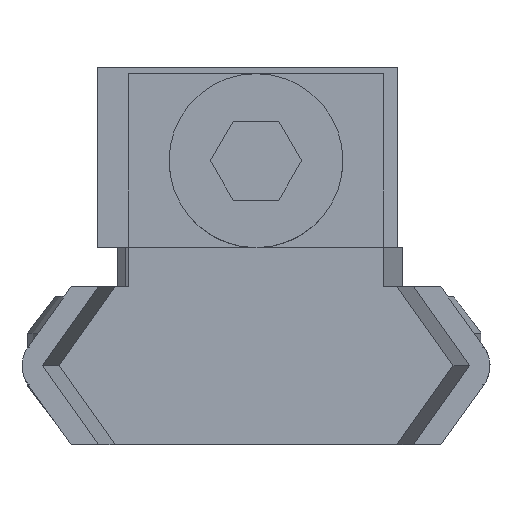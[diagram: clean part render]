
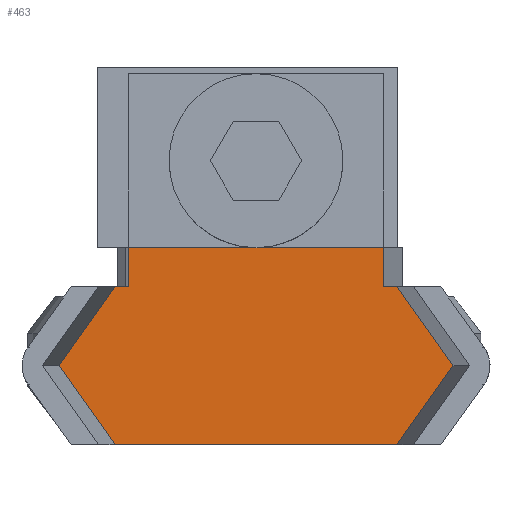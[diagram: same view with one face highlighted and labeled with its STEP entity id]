
A CAD part, left-side view. The second image highlights one B-rep face of the part: STEP entity #463.
In plain terms, the highlighted planar face has unit normal (-1, 0, 0).
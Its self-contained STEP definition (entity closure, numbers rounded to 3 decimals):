
#146 = LINE ( 'NONE', #6248, #530 ) ;
#156 = DIRECTION ( 'NONE',  ( -1., 0., 0. ) ) ;
#189 = EDGE_CURVE ( 'NONE', #4803, #2598, #313, .T. ) ;
#201 = CARTESIAN_POINT ( 'NONE',  ( 3., -5., 4.451 ) ) ;
#210 = VECTOR ( 'NONE', #2327, 1000. ) ;
#251 = DIRECTION ( 'NONE',  ( 0., 0., -1. ) ) ;
#259 = CARTESIAN_POINT ( 'NONE',  ( 3., 0., 0. ) ) ;
#285 = ORIENTED_EDGE ( 'NONE', *, *, #590, .F. ) ;
#313 = LINE ( 'NONE', #573, #2777 ) ;
#463 = ADVANCED_FACE ( 'NONE', ( #4573 ), #2714, .F. ) ;
#524 = VECTOR ( 'NONE', #3842, 1000. ) ;
#527 = ORIENTED_EDGE ( 'NONE', *, *, #2195, .F. ) ;
#530 = VECTOR ( 'NONE', #5815, 1000. ) ;
#555 = EDGE_LOOP ( 'NONE', ( #527, #6181, #2959, #4100, #2853, #3715, #4629, #285, #4739, #5579, #6380, #3537 ) ) ;
#573 = CARTESIAN_POINT ( 'NONE',  ( 3., 0., -0.176 ) ) ;
#590 = EDGE_CURVE ( 'NONE', #4803, #3741, #6364, .T. ) ;
#606 = CARTESIAN_POINT ( 'NONE',  ( 3., -5., -4.451 ) ) ;
#633 = CARTESIAN_POINT ( 'NONE',  ( 3., -2.5, 6.228 ) ) ;
#756 = DIRECTION ( 'NONE',  ( 0., 0., -1. ) ) ;
#767 = CARTESIAN_POINT ( 'NONE',  ( 3., 1.25, 0.234 ) ) ;
#836 = VECTOR ( 'NONE', #1183, 1000. ) ;
#909 = VERTEX_POINT ( 'NONE', #3819 ) ;
#1092 = VECTOR ( 'NONE', #1179, 1000. ) ;
#1156 = CARTESIAN_POINT ( 'NONE',  ( 3., 0., 4.04 ) ) ;
#1179 = DIRECTION ( 'NONE',  ( 0., 0.815, 0.579 ) ) ;
#1183 = DIRECTION ( 'NONE',  ( 0., -1., 0. ) ) ;
#1251 = EDGE_CURVE ( 'NONE', #2571, #1629, #146, .T. ) ;
#1447 = EDGE_CURVE ( 'NONE', #2547, #2598, #6428, .T. ) ;
#1488 = EDGE_CURVE ( 'NONE', #1629, #909, #3617, .T. ) ;
#1587 = VECTOR ( 'NONE', #4471, 1000. ) ;
#1629 = VERTEX_POINT ( 'NONE', #2310 ) ;
#1814 = AXIS2_PLACEMENT_3D ( 'NONE', #4103, #156, #2151 ) ;
#1817 = CIRCLE ( 'NONE', #1814, 2.75 ) ;
#1953 = VERTEX_POINT ( 'NONE', #201 ) ;
#1975 = DIRECTION ( 'NONE',  ( 0., 0., 1. ) ) ;
#2023 = VERTEX_POINT ( 'NONE', #767 ) ;
#2028 = CARTESIAN_POINT ( 'NONE',  ( 3., 1.25, -4.04 ) ) ;
#2151 = DIRECTION ( 'NONE',  ( 0., 0., 1. ) ) ;
#2158 = AXIS2_PLACEMENT_3D ( 'NONE', #259, #3709, #756 ) ;
#2195 = EDGE_CURVE ( 'NONE', #2571, #3574, #2748, .T. ) ;
#2243 = EDGE_CURVE ( 'NONE', #2023, #2547, #3058, .T. ) ;
#2310 = CARTESIAN_POINT ( 'NONE',  ( 3., 0., -4.04 ) ) ;
#2327 = DIRECTION ( 'NONE',  ( 0., 0., 1. ) ) ;
#2486 = DIRECTION ( 'NONE',  ( 0., 0., -1. ) ) ;
#2547 = VERTEX_POINT ( 'NONE', #6042 ) ;
#2571 = VERTEX_POINT ( 'NONE', #2028 ) ;
#2583 = VECTOR ( 'NONE', #1975, 1000. ) ;
#2598 = VERTEX_POINT ( 'NONE', #4552 ) ;
#2684 = CARTESIAN_POINT ( 'NONE',  ( 3., 0., -0.176 ) ) ;
#2706 = LINE ( 'NONE', #6143, #1092 ) ;
#2714 = PLANE ( 'NONE',  #2158 ) ;
#2748 = LINE ( 'NONE', #5818, #210 ) ;
#2777 = VECTOR ( 'NONE', #2486, 1000. ) ;
#2853 = ORIENTED_EDGE ( 'NONE', *, *, #4271, .F. ) ;
#2959 = ORIENTED_EDGE ( 'NONE', *, *, #1488, .T. ) ;
#3058 = LINE ( 'NONE', #5331, #524 ) ;
#3181 = EDGE_CURVE ( 'NONE', #5884, #909, #4218, .T. ) ;
#3215 = VERTEX_POINT ( 'NONE', #606 ) ;
#3433 = CARTESIAN_POINT ( 'NONE',  ( 3., 0., 4.451 ) ) ;
#3537 = ORIENTED_EDGE ( 'NONE', *, *, #3766, .F. ) ;
#3544 = EDGE_CURVE ( 'NONE', #3215, #1953, #4858, .T. ) ;
#3574 = VERTEX_POINT ( 'NONE', #3951 ) ;
#3578 = CARTESIAN_POINT ( 'NONE',  ( 3., 0., 4.451 ) ) ;
#3617 = LINE ( 'NONE', #2684, #4079 ) ;
#3709 = DIRECTION ( 'NONE',  ( 1., 0., 0. ) ) ;
#3715 = ORIENTED_EDGE ( 'NONE', *, *, #3544, .T. ) ;
#3741 = VERTEX_POINT ( 'NONE', #633 ) ;
#3766 = EDGE_CURVE ( 'NONE', #3574, #2023, #1817, .T. ) ;
#3819 = CARTESIAN_POINT ( 'NONE',  ( 3., 0., -4.451 ) ) ;
#3842 = DIRECTION ( 'NONE',  ( 0., 0., 1. ) ) ;
#3916 = CARTESIAN_POINT ( 'NONE',  ( 3., -2.5, -6.228 ) ) ;
#3951 = CARTESIAN_POINT ( 'NONE',  ( 3., 1.25, -0.234 ) ) ;
#4079 = VECTOR ( 'NONE', #251, 1000. ) ;
#4100 = ORIENTED_EDGE ( 'NONE', *, *, #3181, .F. ) ;
#4103 = CARTESIAN_POINT ( 'NONE',  ( 3., 3.99, 0. ) ) ;
#4218 = LINE ( 'NONE', #6011, #1587 ) ;
#4271 = EDGE_CURVE ( 'NONE', #3215, #5884, #4616, .T. ) ;
#4471 = DIRECTION ( 'NONE',  ( 0., 0.815, 0.579 ) ) ;
#4490 = VECTOR ( 'NONE', #4571, 1000. ) ;
#4552 = CARTESIAN_POINT ( 'NONE',  ( 3., 0., 4.04 ) ) ;
#4571 = DIRECTION ( 'NONE',  ( 0., -0.815, 0.579 ) ) ;
#4573 = FACE_OUTER_BOUND ( 'NONE', #555, .T. ) ;
#4616 = LINE ( 'NONE', #5486, #5555 ) ;
#4629 = ORIENTED_EDGE ( 'NONE', *, *, #6147, .T. ) ;
#4739 = ORIENTED_EDGE ( 'NONE', *, *, #189, .T. ) ;
#4803 = VERTEX_POINT ( 'NONE', #3433 ) ;
#4858 = LINE ( 'NONE', #5494, #2583 ) ;
#5331 = CARTESIAN_POINT ( 'NONE',  ( 3., 1.25, 0. ) ) ;
#5486 = CARTESIAN_POINT ( 'NONE',  ( 3., -5., -4.451 ) ) ;
#5494 = CARTESIAN_POINT ( 'NONE',  ( 3., -5., 0.665 ) ) ;
#5514 = DIRECTION ( 'NONE',  ( 0., 0.815, -0.579 ) ) ;
#5555 = VECTOR ( 'NONE', #5514, 1000. ) ;
#5579 = ORIENTED_EDGE ( 'NONE', *, *, #1447, .F. ) ;
#5815 = DIRECTION ( 'NONE',  ( 0., -1., 0. ) ) ;
#5818 = CARTESIAN_POINT ( 'NONE',  ( 3., 1.25, 0. ) ) ;
#5884 = VERTEX_POINT ( 'NONE', #3916 ) ;
#6011 = CARTESIAN_POINT ( 'NONE',  ( 3., -2.5, -6.228 ) ) ;
#6042 = CARTESIAN_POINT ( 'NONE',  ( 3., 1.25, 4.04 ) ) ;
#6143 = CARTESIAN_POINT ( 'NONE',  ( 3., -7.185, 2.897 ) ) ;
#6147 = EDGE_CURVE ( 'NONE', #1953, #3741, #2706, .T. ) ;
#6181 = ORIENTED_EDGE ( 'NONE', *, *, #1251, .T. ) ;
#6248 = CARTESIAN_POINT ( 'NONE',  ( 3., 0., -4.04 ) ) ;
#6364 = LINE ( 'NONE', #3578, #4490 ) ;
#6380 = ORIENTED_EDGE ( 'NONE', *, *, #2243, .F. ) ;
#6428 = LINE ( 'NONE', #1156, #836 ) ;
